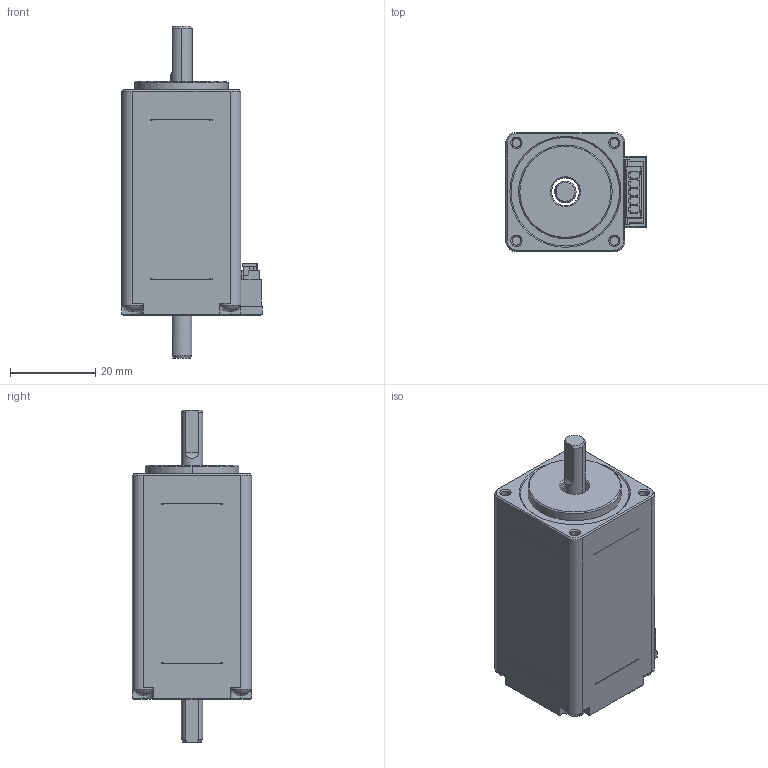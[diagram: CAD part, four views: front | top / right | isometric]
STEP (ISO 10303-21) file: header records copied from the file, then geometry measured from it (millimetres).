
FILE_DESCRIPTION((''),'2;1');
FILE_NAME('3_1_01_028_1033_SW0001','2026-04-25T09:18:57',('xujiajun'),(''),'CREO PARAMETRIC BY PTC INC, 2017110','CREO PARAMETRIC BY PTC INC, 2017110','');
FILE_SCHEMA(('CONFIG_CONTROL_DESIGN'));
Length unit declared in the file: millimetre
Products named in the file (1): 3_1_01_028_1033_SW0001
Bounding box: 33 x 28 x 78 mm (x, y, z)
Volume: 13248.4 mm3; surface area: 19414.3 mm2
Topology: 3 solids, 3 shells, 794 faces, 2188 edges, 1388 vertices
Faces by surface type: plane 551, cylinder 175, cone 52, sphere 8, torus 8
Entity records: 25849 total; most frequent: CARTESIAN_POINT 5227, ORIENTED_EDGE 4376, DIRECTION 4224, EDGE_CURVE 2188, VECTOR 1552, LINE 1552, VERTEX_POINT 1388, AXIS2_PLACEMENT_3D 1336
